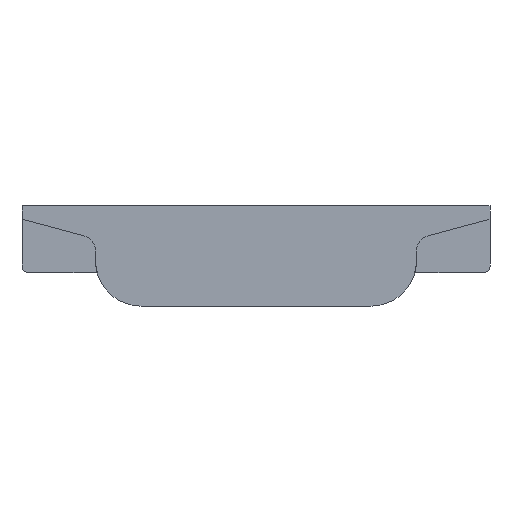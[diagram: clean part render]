
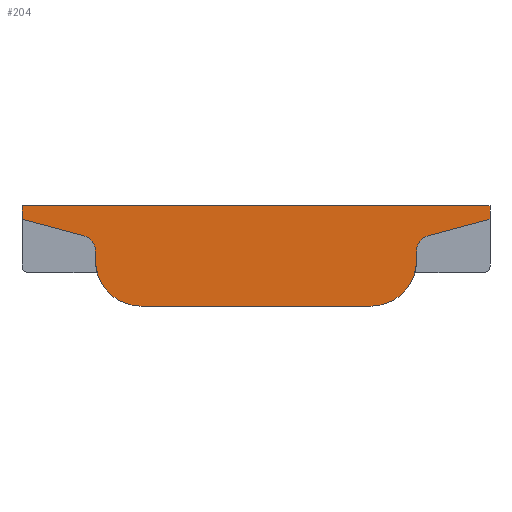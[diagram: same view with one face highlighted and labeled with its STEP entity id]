
A CAD part, front view. The second image highlights one B-rep face of the part: STEP entity #204.
In plain terms, the highlighted planar face has unit normal (0, -1, 0).
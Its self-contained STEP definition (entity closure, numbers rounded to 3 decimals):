
#204 = ADVANCED_FACE( '', ( #478 ), #479, .T. );
#478 = FACE_OUTER_BOUND( '', #827, .T. );
#479 = PLANE( '', #828 );
#827 = EDGE_LOOP( '', ( #1399, #1400, #1401, #1402, #1403, #1404, #1405, #1406, #1407, #1408, #1409, #1410 ) );
#828 = AXIS2_PLACEMENT_3D( '', #1411, #1412, #1413 );
#1399 = ORIENTED_EDGE( '', *, *, #2311, .T. );
#1400 = ORIENTED_EDGE( '', *, *, #2312, .T. );
#1401 = ORIENTED_EDGE( '', *, *, #2313, .T. );
#1402 = ORIENTED_EDGE( '', *, *, #2314, .T. );
#1403 = ORIENTED_EDGE( '', *, *, #2172, .T. );
#1404 = ORIENTED_EDGE( '', *, *, #2135, .T. );
#1405 = ORIENTED_EDGE( '', *, *, #2315, .T. );
#1406 = ORIENTED_EDGE( '', *, *, #2316, .T. );
#1407 = ORIENTED_EDGE( '', *, *, #2317, .T. );
#1408 = ORIENTED_EDGE( '', *, *, #2318, .T. );
#1409 = ORIENTED_EDGE( '', *, *, #2168, .T. );
#1410 = ORIENTED_EDGE( '', *, *, #2319, .T. );
#1411 = CARTESIAN_POINT( '', ( -8.6, -87.35, 3.4 ) );
#1412 = DIRECTION( '', ( 0., -1., 0. ) );
#1413 = DIRECTION( '', ( 0., 0., -1. ) );
#2135 = EDGE_CURVE( '', #2572, #2570, #2573, .T. );
#2168 = EDGE_CURVE( '', #2623, #2628, #2630, .T. );
#2172 = EDGE_CURVE( '', #2632, #2572, #2636, .T. );
#2311 = EDGE_CURVE( '', #2864, #2865, #2866, .T. );
#2312 = EDGE_CURVE( '', #2865, #2867, #2868, .T. );
#2313 = EDGE_CURVE( '', #2867, #2869, #2870, .T. );
#2314 = EDGE_CURVE( '', #2869, #2632, #2871, .T. );
#2315 = EDGE_CURVE( '', #2570, #2872, #2873, .T. );
#2316 = EDGE_CURVE( '', #2872, #2874, #2875, .T. );
#2317 = EDGE_CURVE( '', #2874, #2876, #2877, .T. );
#2318 = EDGE_CURVE( '', #2876, #2623, #2878, .T. );
#2319 = EDGE_CURVE( '', #2628, #2864, #2879, .T. );
#2570 = VERTEX_POINT( '', #3196 );
#2572 = VERTEX_POINT( '', #3199 );
#2573 = CIRCLE( '', #3200, 3.4 );
#2623 = VERTEX_POINT( '', #3266 );
#2628 = VERTEX_POINT( '', #3273 );
#2630 = LINE( '', #3276, #3277 );
#2632 = VERTEX_POINT( '', #3279 );
#2636 = LINE( '', #3285, #3286 );
#2864 = VERTEX_POINT( '', #3591 );
#2865 = VERTEX_POINT( '', #3592 );
#2866 = LINE( '', #3593, #3594 );
#2867 = VERTEX_POINT( '', #3595 );
#2868 = LINE( '', #3596, #3597 );
#2869 = VERTEX_POINT( '', #3598 );
#2870 = LINE( '', #3599, #3600 );
#2871 = CIRCLE( '', #3601, 1.2 );
#2872 = VERTEX_POINT( '', #3602 );
#2873 = LINE( '', #3603, #3604 );
#2874 = VERTEX_POINT( '', #3605 );
#2875 = CIRCLE( '', #3606, 3.4 );
#2876 = VERTEX_POINT( '', #3607 );
#2877 = LINE( '', #3608, #3609 );
#2878 = CIRCLE( '', #3610, 1.2 );
#2879 = LINE( '', #3611, #3612 );
#3196 = CARTESIAN_POINT( '', ( -8.6, -87.35, 0. ) );
#3199 = CARTESIAN_POINT( '', ( -12., -87.35, 3.4 ) );
#3200 = AXIS2_PLACEMENT_3D( '', #4008, #4009, #4010 );
#3266 = CARTESIAN_POINT( '', ( 12.889, -87.35, 5.265 ) );
#3273 = CARTESIAN_POINT( '', ( 17.5, -87.35, 6.5 ) );
#3276 = CARTESIAN_POINT( '', ( 17.5, -87.35, 6.5 ) );
#3277 = VECTOR( '', #4051, 1000. );
#3279 = CARTESIAN_POINT( '', ( -12., -87.35, 4.105 ) );
#3285 = CARTESIAN_POINT( '', ( -12., -87.35, 4.105 ) );
#3286 = VECTOR( '', #4054, 1000. );
#3591 = CARTESIAN_POINT( '', ( 17.5, -87.35, 7.5 ) );
#3592 = CARTESIAN_POINT( '', ( -17.5, -87.35, 7.5 ) );
#3593 = CARTESIAN_POINT( '', ( 13.2, -87.35, 7.5 ) );
#3594 = VECTOR( '', #4237, 1000. );
#3595 = CARTESIAN_POINT( '', ( -17.5, -87.35, 6.5 ) );
#3596 = CARTESIAN_POINT( '', ( -17.5, -87.35, 7.5 ) );
#3597 = VECTOR( '', #4238, 1000. );
#3598 = CARTESIAN_POINT( '', ( -12.889, -87.35, 5.265 ) );
#3599 = CARTESIAN_POINT( '', ( -17.5, -87.35, 6.5 ) );
#3600 = VECTOR( '', #4239, 1000. );
#3601 = AXIS2_PLACEMENT_3D( '', #4240, #4241, #4242 );
#3602 = CARTESIAN_POINT( '', ( 8.6, -87.35, 0. ) );
#3603 = CARTESIAN_POINT( '', ( -8.6, -87.35, 0. ) );
#3604 = VECTOR( '', #4243, 1000. );
#3605 = CARTESIAN_POINT( '', ( 12., -87.35, 3.4 ) );
#3606 = AXIS2_PLACEMENT_3D( '', #4244, #4245, #4246 );
#3607 = CARTESIAN_POINT( '', ( 12., -87.35, 4.105 ) );
#3608 = CARTESIAN_POINT( '', ( 12., -87.35, 4.105 ) );
#3609 = VECTOR( '', #4247, 1000. );
#3610 = AXIS2_PLACEMENT_3D( '', #4248, #4249, #4250 );
#3611 = CARTESIAN_POINT( '', ( 17.5, -87.35, 7.5 ) );
#3612 = VECTOR( '', #4251, 1000. );
#4008 = CARTESIAN_POINT( '', ( -8.6, -87.35, 3.4 ) );
#4009 = DIRECTION( '', ( 0., -1., 0. ) );
#4010 = DIRECTION( '', ( 1., 0., 0. ) );
#4051 = DIRECTION( '', ( 0.966, 0., 0.259 ) );
#4054 = DIRECTION( '', ( 0., 0., -1. ) );
#4237 = DIRECTION( '', ( -1., 0., 0. ) );
#4238 = DIRECTION( '', ( 0., 0., -1. ) );
#4239 = DIRECTION( '', ( 0.966, 0., -0.259 ) );
#4240 = CARTESIAN_POINT( '', ( -13.2, -87.35, 4.105 ) );
#4241 = DIRECTION( '', ( 0., 1., 0. ) );
#4242 = DIRECTION( '', ( -1., 0., 0. ) );
#4243 = DIRECTION( '', ( 1., 0., 0. ) );
#4244 = CARTESIAN_POINT( '', ( 8.6, -87.35, 3.4 ) );
#4245 = DIRECTION( '', ( 0., -1., 0. ) );
#4246 = DIRECTION( '', ( -1., 0., 0. ) );
#4247 = DIRECTION( '', ( 0., 0., 1. ) );
#4248 = CARTESIAN_POINT( '', ( 13.2, -87.35, 4.105 ) );
#4249 = DIRECTION( '', ( 0., 1., 0. ) );
#4250 = DIRECTION( '', ( 1., 0., 0. ) );
#4251 = DIRECTION( '', ( 0., 0., 1. ) );
